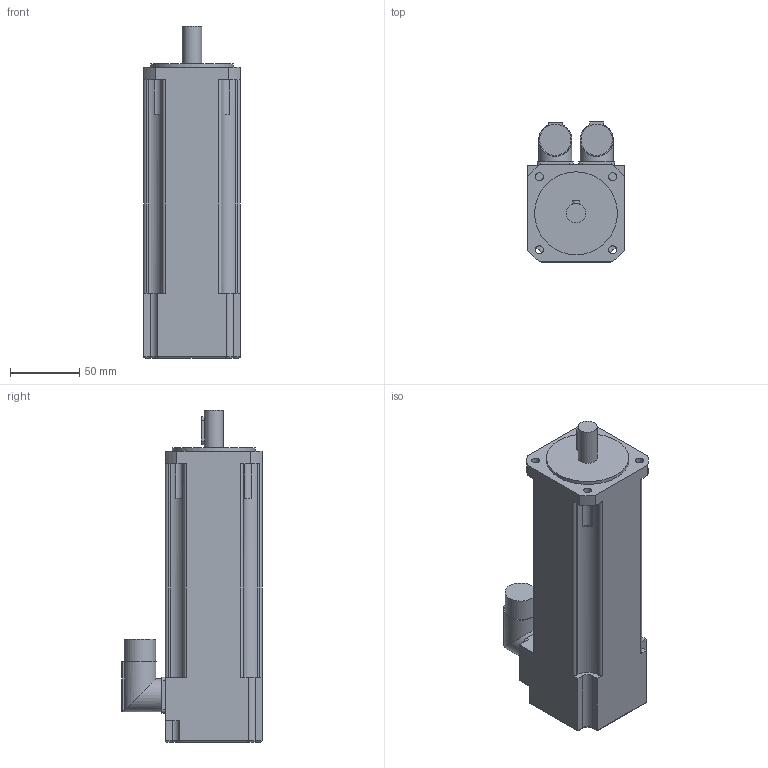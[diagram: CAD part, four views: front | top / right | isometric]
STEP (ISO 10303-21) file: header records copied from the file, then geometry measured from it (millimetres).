
FILE_DESCRIPTION(/* description */ (''),/* implementation_level */ '2;1');
FILE_NAME(/* name */ '\\Lafnas01\disegni\Archivi Lafert\3D\CAD 3D\MODELLI\Assiemi clienti\Serad\Modelli 3D Serad\B36Q\Encoder\Enc With brake\B36F4Qxx6BRx2033.ipt.stp',/* time_stamp */ '2015-09-07T10:49:21+02:00',/* author */ ('Pastrello Ylenia'),/* organization */ (''),/* preprocessor_version */ 'ST-DEVELOPER v15.6',/* originating_system */ 'Autodesk Inventor 2015',/* authorisation */ '');
FILE_SCHEMA (('AUTOMOTIVE_DESIGN { 1 0 10303 214 3 1 1 }'));
Length unit declared in the file: millimetre
Products named in the file (1): B36F4Qxx6BRx2033
Bounding box: 70 x 101.5 x 240.5 mm (x, y, z)
Volume: 981564.3 mm3; surface area: 76704.1 mm2
Topology: 1 solids, 1 shells, 121 faces, 322 edges, 210 vertices
Faces by surface type: plane 59, cylinder 58, torus 4
Full cylindrical faces by diameter (mm): 5.8 x4, 14 x1, 22.7 x2, 24 x2, 60 x1
Entity records: 3806 total; most frequent: CARTESIAN_POINT 678, DIRECTION 676, ORIENTED_EDGE 624, EDGE_CURVE 312, AXIS2_PLACEMENT_3D 244, VERTEX_POINT 210, LINE 188, VECTOR 188
